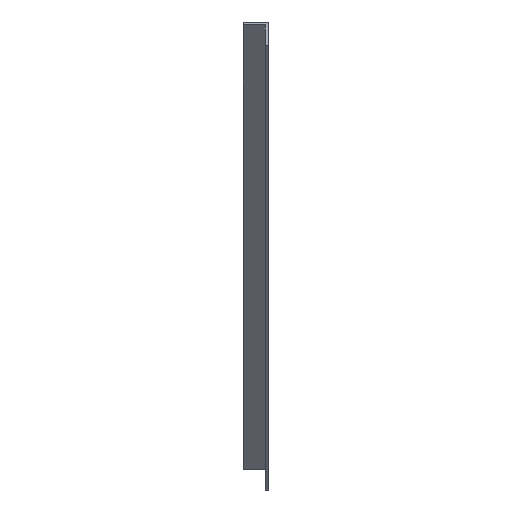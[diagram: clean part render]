
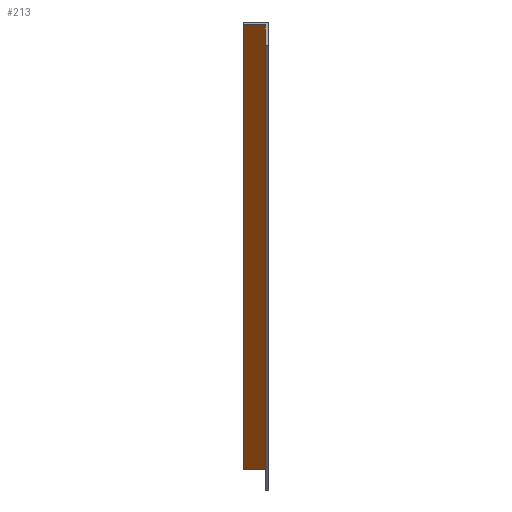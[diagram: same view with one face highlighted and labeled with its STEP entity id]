
A CAD part, left-side view. The second image highlights one B-rep face of the part: STEP entity #213.
In plain terms, the highlighted planar face has unit normal (-0.378, 0, -0.926).
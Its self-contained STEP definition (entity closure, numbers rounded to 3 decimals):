
#72 = PLANE('',#73);
#73 = AXIS2_PLACEMENT_3D('',#74,#75,#76);
#74 = CARTESIAN_POINT('',(-1650.884,2021.515,
    3068.228));
#75 = DIRECTION('',(-0.926,-0.,0.378));
#76 = DIRECTION('',(-0.378,0.,-0.926));
#100 = PLANE('',#101);
#101 = AXIS2_PLACEMENT_3D('',#102,#103,#104);
#102 = CARTESIAN_POINT('',(1642.,2074.2,1750.));
#103 = DIRECTION('',(-0.,-1.,0.));
#104 = DIRECTION('',(-0.378,0.,-0.926));
#126 = PLANE('',#127);
#127 = AXIS2_PLACEMENT_3D('',#128,#129,#130);
#128 = CARTESIAN_POINT('',(1633.116,2021.515,
    1728.228));
#129 = DIRECTION('',(-0.926,-0.,0.378));
#130 = DIRECTION('',(-0.378,0.,-0.926));
#143 = VERTEX_POINT('',#144);
#144 = CARTESIAN_POINT('',(-1645.599,2074.2,
    3081.181));
#165 = EDGE_CURVE('',#166,#143,#168,.T.);
#166 = VERTEX_POINT('',#167);
#167 = CARTESIAN_POINT('',(1638.401,2074.2,
    1741.181));
#168 = SURFACE_CURVE('',#169,(#173,#180),.PCURVE_S1.);
#169 = LINE('',#170,#171);
#170 = CARTESIAN_POINT('',(1638.401,2074.2,
    1741.181));
#171 = VECTOR('',#172,1.);
#172 = DIRECTION('',(-0.926,0.,0.378));
#173 = PCURVE('',#100,#174);
#174 = DEFINITIONAL_REPRESENTATION('',(#175),#179);
#175 = LINE('',#176,#177);
#176 = CARTESIAN_POINT('',(9.525,0.));
#177 = VECTOR('',#178,1.);
#178 = DIRECTION('',(0.,-1.));
#179 = ( GEOMETRIC_REPRESENTATION_CONTEXT(2) 
PARAMETRIC_REPRESENTATION_CONTEXT() REPRESENTATION_CONTEXT('2D SPACE',''
  ) );
#180 = PCURVE('',#181,#186);
#181 = PLANE('',#182);
#182 = AXIS2_PLACEMENT_3D('',#183,#184,#185);
#183 = CARTESIAN_POINT('',(1638.401,2074.2,
    1741.181));
#184 = DIRECTION('',(0.378,0.,0.926));
#185 = DIRECTION('',(0.,-1.,0.));
#186 = DEFINITIONAL_REPRESENTATION('',(#187),#191);
#187 = LINE('',#188,#189);
#188 = CARTESIAN_POINT('',(0.,0.));
#189 = VECTOR('',#190,1.);
#190 = DIRECTION('',(0.,-1.));
#191 = ( GEOMETRIC_REPRESENTATION_CONTEXT(2) 
PARAMETRIC_REPRESENTATION_CONTEXT() REPRESENTATION_CONTEXT('2D SPACE',''
  ) );
#213 = ADVANCED_FACE('',(#214),#181,.F.);
#214 = FACE_BOUND('',#215,.F.);
#215 = EDGE_LOOP('',(#216,#217,#240,#268));
#216 = ORIENTED_EDGE('',*,*,#165,.T.);
#217 = ORIENTED_EDGE('',*,*,#218,.T.);
#218 = EDGE_CURVE('',#143,#219,#221,.T.);
#219 = VERTEX_POINT('',#220);
#220 = CARTESIAN_POINT('',(-1645.599,2007.525,
    3081.181));
#221 = SURFACE_CURVE('',#222,(#226,#233),.PCURVE_S1.);
#222 = LINE('',#223,#224);
#223 = CARTESIAN_POINT('',(-1645.599,2074.2,
    3081.181));
#224 = VECTOR('',#225,1.);
#225 = DIRECTION('',(0.,-1.,0.));
#226 = PCURVE('',#181,#227);
#227 = DEFINITIONAL_REPRESENTATION('',(#228),#232);
#228 = LINE('',#229,#230);
#229 = CARTESIAN_POINT('',(0.,-3546.866));
#230 = VECTOR('',#231,1.);
#231 = DIRECTION('',(1.,0.));
#232 = ( GEOMETRIC_REPRESENTATION_CONTEXT(2) 
PARAMETRIC_REPRESENTATION_CONTEXT() REPRESENTATION_CONTEXT('2D SPACE',''
  ) );
#233 = PCURVE('',#72,#234);
#234 = DEFINITIONAL_REPRESENTATION('',(#235),#239);
#235 = LINE('',#236,#237);
#236 = CARTESIAN_POINT('',(-13.99,-52.685));
#237 = VECTOR('',#238,1.);
#238 = DIRECTION('',(-0.,1.));
#239 = ( GEOMETRIC_REPRESENTATION_CONTEXT(2) 
PARAMETRIC_REPRESENTATION_CONTEXT() REPRESENTATION_CONTEXT('2D SPACE',''
  ) );
#240 = ORIENTED_EDGE('',*,*,#241,.F.);
#241 = EDGE_CURVE('',#242,#219,#244,.T.);
#242 = VERTEX_POINT('',#243);
#243 = CARTESIAN_POINT('',(1638.401,2007.525,
    1741.181));
#244 = SURFACE_CURVE('',#245,(#249,#256),.PCURVE_S1.);
#245 = LINE('',#246,#247);
#246 = CARTESIAN_POINT('',(1638.401,2007.525,
    1741.181));
#247 = VECTOR('',#248,1.);
#248 = DIRECTION('',(-0.926,0.,0.378));
#249 = PCURVE('',#181,#250);
#250 = DEFINITIONAL_REPRESENTATION('',(#251),#255);
#251 = LINE('',#252,#253);
#252 = CARTESIAN_POINT('',(66.675,0.));
#253 = VECTOR('',#254,1.);
#254 = DIRECTION('',(0.,-1.));
#255 = ( GEOMETRIC_REPRESENTATION_CONTEXT(2) 
PARAMETRIC_REPRESENTATION_CONTEXT() REPRESENTATION_CONTEXT('2D SPACE',''
  ) );
#256 = PCURVE('',#257,#262);
#257 = PLANE('',#258);
#258 = AXIS2_PLACEMENT_3D('',#259,#260,#261);
#259 = CARTESIAN_POINT('',(1638.401,2007.525,
    1741.181));
#260 = DIRECTION('',(-0.,-1.,0.));
#261 = DIRECTION('',(-0.378,0.,-0.926));
#262 = DEFINITIONAL_REPRESENTATION('',(#263),#267);
#263 = LINE('',#264,#265);
#264 = CARTESIAN_POINT('',(0.,0.));
#265 = VECTOR('',#266,1.);
#266 = DIRECTION('',(0.,-1.));
#267 = ( GEOMETRIC_REPRESENTATION_CONTEXT(2) 
PARAMETRIC_REPRESENTATION_CONTEXT() REPRESENTATION_CONTEXT('2D SPACE',''
  ) );
#268 = ORIENTED_EDGE('',*,*,#269,.F.);
#269 = EDGE_CURVE('',#166,#242,#270,.T.);
#270 = SURFACE_CURVE('',#271,(#275,#282),.PCURVE_S1.);
#271 = LINE('',#272,#273);
#272 = CARTESIAN_POINT('',(1638.401,2074.2,
    1741.181));
#273 = VECTOR('',#274,1.);
#274 = DIRECTION('',(0.,-1.,0.));
#275 = PCURVE('',#181,#276);
#276 = DEFINITIONAL_REPRESENTATION('',(#277),#281);
#277 = LINE('',#278,#279);
#278 = CARTESIAN_POINT('',(0.,0.));
#279 = VECTOR('',#280,1.);
#280 = DIRECTION('',(1.,0.));
#281 = ( GEOMETRIC_REPRESENTATION_CONTEXT(2) 
PARAMETRIC_REPRESENTATION_CONTEXT() REPRESENTATION_CONTEXT('2D SPACE',''
  ) );
#282 = PCURVE('',#126,#283);
#283 = DEFINITIONAL_REPRESENTATION('',(#284),#288);
#284 = LINE('',#285,#286);
#285 = CARTESIAN_POINT('',(-13.99,-52.685));
#286 = VECTOR('',#287,1.);
#287 = DIRECTION('',(-0.,1.));
#288 = ( GEOMETRIC_REPRESENTATION_CONTEXT(2) 
PARAMETRIC_REPRESENTATION_CONTEXT() REPRESENTATION_CONTEXT('2D SPACE',''
  ) );
